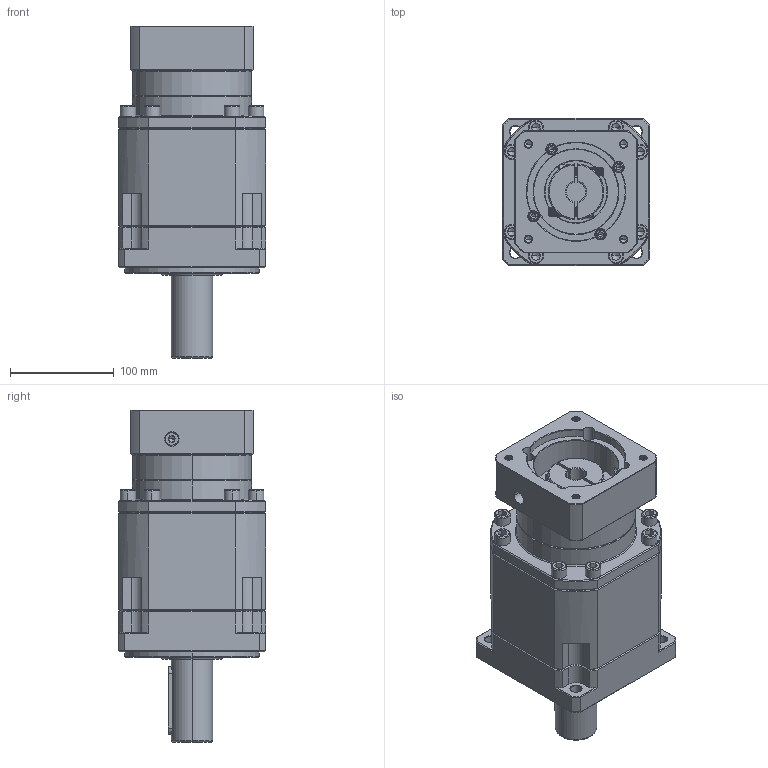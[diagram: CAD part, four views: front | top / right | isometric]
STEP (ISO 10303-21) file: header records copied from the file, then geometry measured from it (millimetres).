
FILE_DESCRIPTION (( 'STEP AP214' ), '1' );
FILE_NAME ('ZB142A-D40-L3-19-95-130-M8.step', '2023-03-18T07:05:48', ( '' ), ( '' ), 'SwSTEP 2.0', 'SolidWorks 2016', '' );
FILE_SCHEMA (( 'AUTOMOTIVE_DESIGN' ));
Length unit declared in the file: millimetre
Products named in the file (1): ZB142A-D40-L3-19-95-130-M8
Bounding box: 142 x 142 x 320.7 mm (x, y, z)
Volume: 3711213.7 mm3; surface area: 259187.3 mm2
Topology: 6 solids, 6 shells, 2272 faces, 5849 edges, 3694 vertices
Faces by surface type: plane 1025, cylinder 493, cone 389, bspline 307, torus 58
Entity records: 119972 total; most frequent: CARTESIAN_POINT 42351, ORIENTED_EDGE 11590, DIRECTION 9849, EDGE_CURVE 5795, VERTEX_POINT 3694, VECTOR 3591, LINE 3591, AXIS2_PLACEMENT_3D 3129
